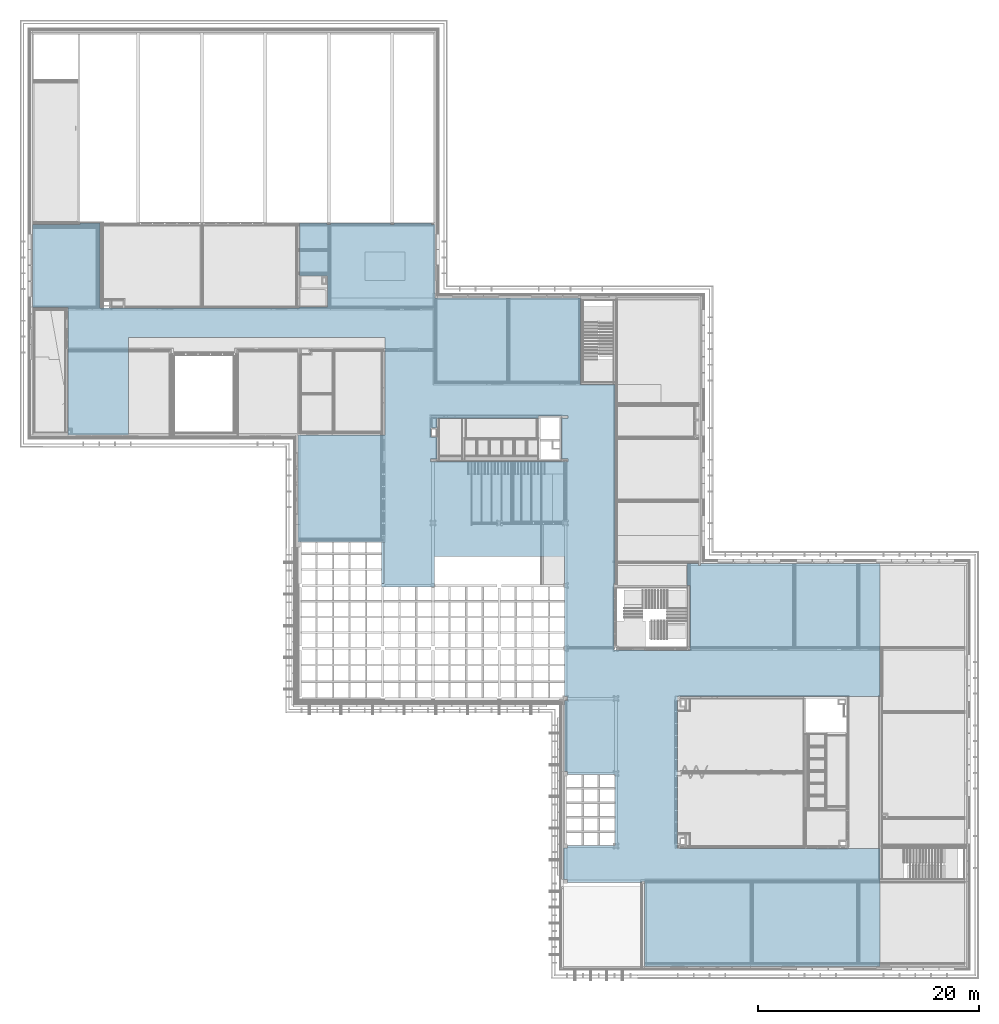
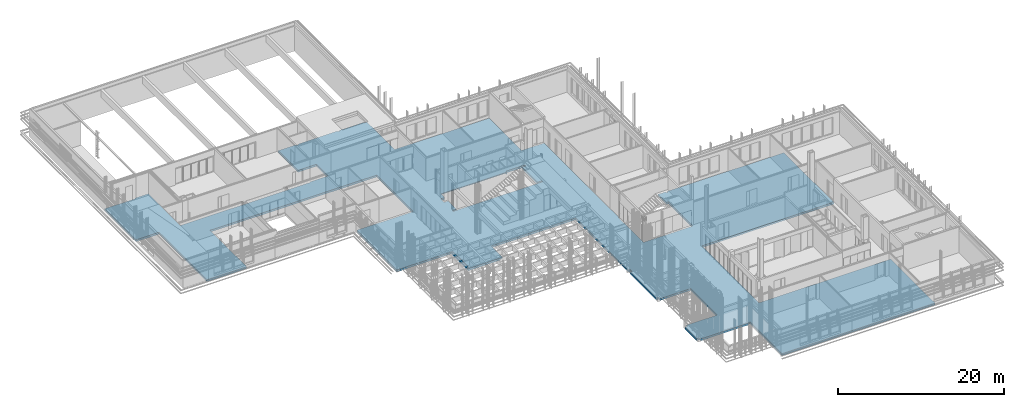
# One storey, part 92 of 139: 1 building element part, 7 openings, 1 element without a shape of its own.
"""IFC2X3 building model written with IfcOpenShell, lengths in millimetres."""

from ifc_helpers import new_model, entity, si_unit, converted_unit, derived_unit, money_unit, direction, frame, origin_with_axes, place, context, subcontext, project, spatial, faceted_brep, material, type_object, element, aggregate, save


model = new_model("IFC2X3")

# Units and contexts
model_context = context("Model", 3, precision=0.01, world=origin_with_axes(), true_north=direction((0.0, 1.0)))
body_context = subcontext(model_context, "Body", "Model", "MODEL_VIEW")
ifc_project = project(units=[si_unit("LENGTHUNIT", "METRE", prefix="MILLI"), si_unit("AREAUNIT", "SQUARE_METRE"), si_unit("VOLUMEUNIT", "CUBIC_METRE"), converted_unit("PLANEANGLEUNIT", "DEGREE", entity("IfcPlaneAngleMeasure", 0.0174532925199), si_unit("PLANEANGLEUNIT", "RADIAN"), dimensions=[0, 0, 0, 0, 0, 0, 0]), money_unit("EUR"), converted_unit("TIMEUNIT", "Year", entity("IfcTimeMeasure", 31556926.0), si_unit("TIMEUNIT", "SECOND"), dimensions=[0, 0, 1, 0, 0, 0, 0]), si_unit("MASSUNIT", "GRAM", prefix="KILO"), si_unit("THERMODYNAMICTEMPERATUREUNIT", "DEGREE_CELSIUS"), si_unit("LUMINOUSINTENSITYUNIT", "LUMEN"), si_unit("ENERGYUNIT", "JOULE", prefix="MEGA"), derived_unit("THERMALCONDUCTANCEUNIT", [(si_unit("POWERUNIT", "WATT"), 1), (si_unit("LENGTHUNIT", "METRE"), -1), (si_unit("THERMODYNAMICTEMPERATUREUNIT", "KELVIN"), -1)]), derived_unit("SPECIFICHEATCAPACITYUNIT", [(si_unit("ENERGYUNIT", "JOULE"), 1), (si_unit("MASSUNIT", "GRAM", prefix="KILO"), -1), (si_unit("THERMODYNAMICTEMPERATUREUNIT", "KELVIN"), -1)]), derived_unit("MASSDENSITYUNIT", [(si_unit("MASSUNIT", "GRAM", prefix="KILO"), 1), (si_unit("VOLUMEUNIT", "CUBIC_METRE"), -1)])], contexts=[model_context])

# Site, building, storey
site_placement = place(None, origin_with_axes())
site = spatial("IfcSite", under=ifc_project, at=site_placement, Name="Kolde pst 67a", CompositionType="ELEMENT")
building_placement = place(site_placement, origin_with_axes())
building = spatial("IfcBuilding", under=site, at=building_placement, Name="Riigigümnaasium", CompositionType="ELEMENT")
storey_placement = place(building_placement, frame((0.0, 0.0, 4600.0), z_axis=(0.0, 0.0, 1.0), x_axis=(1.0, 0.0, 0.0)))
storey = spatial("IfcBuildingStorey", under=building, at=storey_placement, Name="2. korrus", CompositionType="ELEMENT", Elevation=4600.0)

# Slab, openings, building element part
slab_type = type_object("IfcSlabType", Name="VL-CLT-28/1_PVC kate 430", PredefinedType="NOTDEFINED")
slab_placement = place(storey_placement, frame((39.9563582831, 59549.9979567, 0.0), z_axis=(0.0, 0.0, 1.0), x_axis=(1.0, 0.0, 0.0)))
slab = element("IfcSlab", 1, at=slab_placement, inside=storey, type_object=slab_type, Name="VAHELAGI", PredefinedType="NOTDEFINED")
opening_1_placement = place(slab_placement, frame((-39.9563582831, -59549.9979567, -4600.0), z_axis=(0.0, 0.0, 1.0), x_axis=(1.0, 0.0, 0.0)))
element("IfcOpeningElement", 2, at=opening_1_placement, cuts=slab, Name="Šaht", ObjectType="OPENING", context=body_context, shape_type="Brep", body=[
    faceted_brep([(45774.9854607, 45669.9999598, 12550.0), (45774.9854607, 47471.3382495, 12550.0), (45774.9854607, 47471.3382495, -50.0), (45774.9854607, 45669.9999598, -50.0), (47874.9854607, 45669.9999598, 12550.0), (47874.9854607, 47471.3382495, 12550.0), (47874.9854607, 47471.3382495, -50.0), (47874.9854607, 45669.9999598, -50.0)], [[[0, 1, 2, 3]], [[0, 4, 5, 1]], [[1, 5, 6, 2]], [[3, 2, 6, 7]], [[4, 0, 3, 7]], [[5, 4, 7, 6]]]),
])
opening_2_placement = place(slab_placement, frame((-39.9563582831, -59549.9979567, -4600.0), z_axis=(0.0, 0.0, 1.0), x_axis=(1.0, 0.0, 0.0)))
element("IfcOpeningElement", 3, at=opening_2_placement, cuts=slab, Name="Šaht", ObjectType="OPENING", context=body_context, shape_type="Brep", body=[
    faceted_brep([(45774.9854607, 47471.3382495, 12550.0), (45774.9854607, 49769.9999599, 12550.0), (45774.9854607, 49769.9999599, -50.0), (45774.9854607, 47471.3382495, -50.0), (47874.9854607, 47471.3382495, 12550.0), (47874.9854607, 49769.9999599, 12550.0), (47874.9854607, 49769.9999599, -50.0), (47874.9854607, 47471.3382495, -50.0)], [[[0, 1, 2, 3]], [[0, 4, 5, 1]], [[1, 5, 6, 2]], [[3, 2, 6, 7]], [[4, 0, 3, 7]], [[5, 4, 7, 6]]]),
])
opening_3_placement = place(slab_placement, frame((-39.9563582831, -59549.9979567, -4600.0), z_axis=(0.0, 0.0, 1.0), x_axis=(1.0, 0.0, 0.0)))
element("IfcOpeningElement", 4, at=opening_3_placement, cuts=slab, Name="Õhuruum", ObjectType="OPENING", context=body_context, shape_type="Brep", body=[
    faceted_brep([(47799.9854892, 10979.9999742, 5050.0), (47799.9854892, 17369.9999742, 5050.0), (47799.9854892, 17369.9999742, 3700.0), (47799.9854892, 10979.9999742, 3700.0), (52699.9854892, 10979.9999742, 5050.0), (52699.9854892, 17369.9999742, 5050.0), (52699.9854892, 17369.9999742, 3700.0), (52699.9854892, 10979.9999742, 3700.0)], [[[0, 1, 2, 3]], [[0, 4, 5, 1]], [[1, 5, 6, 2]], [[3, 2, 6, 7]], [[4, 0, 3, 7]], [[5, 4, 7, 6]]]),
])
opening_4_placement = place(slab_placement, frame((-39.9563582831, -59549.9979567, -4600.0), z_axis=(0.0, 0.0, 1.0), x_axis=(1.0, 0.0, 0.0)))
element("IfcOpeningElement", 5, at=opening_4_placement, cuts=slab, Name="Šaht", ObjectType="OPENING", context=body_context, shape_type="Brep", body=[
    faceted_brep([(32549.1365803, 31079.999196, -50.0), (32549.1365803, 31579.9999486, -50.0), (32549.1365803, 31579.9999486, 12550.0), (32549.1365803, 31079.999196, 12550.0), (31940.0027776, 31079.999196, -50.0), (31940.0027776, 31579.9999486, -50.0), (31940.0027776, 31579.9999486, 12550.0), (31940.0027776, 31079.999196, 12550.0)], [[[0, 1, 2, 3]], [[0, 4, 5, 1]], [[1, 5, 6, 2]], [[3, 2, 6, 7]], [[4, 0, 3, 7]], [[5, 4, 7, 6]]]),
])
opening_5_placement = place(slab_placement, frame((-39.9563582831, -59549.9979567, -4600.0), z_axis=(0.0, 0.0, 1.0), x_axis=(1.0, 0.0, 0.0)))
element("IfcOpeningElement", 6, at=opening_5_placement, cuts=slab, Name="Šaht", ObjectType="OPENING", context=body_context, shape_type="Brep", body=[
    faceted_brep([(36054.99923, 47865.0003336, 12673.7250489), (36054.99923, 48680.0003365, 12673.7250489), (36054.99923, 48680.0003365, -50.0), (36054.99923, 47865.0003336, -50.0), (36604.99923, 47865.0003336, 12673.7250489), (36604.99923, 48680.0003365, 12673.7250489), (36604.99923, 48680.0003365, -50.0), (36604.99923, 47865.0003336, -50.0)], [[[0, 1, 2, 3]], [[0, 4, 5, 1]], [[1, 5, 6, 2]], [[3, 2, 6, 7]], [[4, 0, 3, 7]], [[5, 4, 7, 6]]]),
])
opening_6_placement = place(slab_placement, frame((-39.9563582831, -59549.9979567, -4600.0), z_axis=(0.0, 0.0, 1.0), x_axis=(1.0, 0.0, 0.0)))
element("IfcOpeningElement", 7, at=opening_6_placement, cuts=slab, Name="Šaht", ObjectType="OPENING", context=body_context, shape_type="Brep", body=[
    faceted_brep([(24200.0027342, 59624.9979478, 5050.0), (24200.0027342, 62421.1829534, 5050.0), (24200.0027342, 62421.1829534, 3700.0), (24200.0027342, 59624.9979478, 3700.0), (26729.99923, 59624.9979478, 5050.0), (26729.99923, 62421.1829534, 5050.0), (26729.99923, 62421.1829534, 3700.0), (26729.99923, 59624.9979478, 3700.0)], [[[0, 1, 2, 3]], [[0, 4, 5, 1]], [[1, 5, 6, 2]], [[3, 2, 6, 7]], [[4, 0, 3, 7]], [[5, 4, 7, 6]]]),
])
opening_7_placement = place(slab_placement, frame((-39.9563582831, -59549.9979567, -4600.0), z_axis=(0.0, 0.0, 1.0), x_axis=(1.0, 0.0, 0.0)))
element("IfcOpeningElement", 8, at=opening_7_placement, cuts=slab, Name="Šaht", ObjectType="OPENING", context=body_context, shape_type="Brep", body=[
    faceted_brep([(42369.99923, 30974.9992219, -50.0), (42869.9999826, 30974.9992219, -50.0), (42869.9999826, 30974.9992219, 12550.0), (42369.99923, 30974.9992219, 12550.0), (42369.99923, 31579.999976, -50.0), (42869.9999826, 31579.999976, -50.0), (42869.9999826, 31579.999976, 12550.0), (42369.99923, 31579.999976, 12550.0)], [[[0, 1, 2, 3]], [[0, 4, 5, 1]], [[1, 5, 6, 2]], [[3, 2, 6, 7]], [[4, 0, 3, 7]], [[5, 4, 7, 6]]]),
])
ifc_material = material(Name="_KANDETARIND - CLT ristkihtliimpuit vastavalt EK osale, CLT paigaldusvuugid teibitakse ROTHOBLAAS teibiga")
building_element_part_placement = place(slab_placement, origin_with_axes())
building_element_part = element("IfcBuildingElementPart", 9, at=building_element_part_placement, material=ifc_material, Name="_KANDETARIND - CLT ristkihtliimpuit vastavalt EK osale, CLT paigaldusvuugid teibitakse ROTHOBLAAS teibiga", context=body_context, shape_type="Brep", body=[
    faceted_brep([(31542.0451688, -21190.01713, -150.0), (31542.0424096, -21190.01713, -174.364167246), (31780.0464203, -21190.01713, -174.364167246), (31780.0464203, -21190.01713, -150.0), (31542.0451963, -21150.0171312, -150.0), (31542.0451963, -21150.0171312, -430.0), (31542.0423908, -25229.9979567, -430.0), (31542.0423908, -25229.9979567, -150.0), (31542.042604, -24920.0028824, -150.0), (31542.0423923, -24920.0028824, -174.364167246), (31542.0428717, -24859.9979853, -174.364167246), (31542.0428717, -21199.9779977, -174.364167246), (31780.0464203, -24920.0028824, -174.364167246), (31780.0464203, -24920.0028824, -150.0), (36330.0428742, -25229.9979567, -150.0), (36330.0428742, -22459.0940537, -150.0), (48070.0039964, -22459.0596283, -150.0), (48070.0411517, -35130.001422, -150.0), (48380.0291024, -35130.001422, -150.0), (48380.0291024, -35510.001422, -150.0), (48070.0577274, -35510.0023309, -150.0), (48070.0200361, -41899.998263, -150.0), (48380.0242121, -41899.998263, -150.0), (48380.0242121, -42179.9979825, -150.0), (52660.0291309, -42179.9979825, -150.0), (52660.0291309, -48569.9979825, -150.0), (48380.0291408, -48569.9979825, -150.0), (48380.0291408, -48840.0359831, -150.0), (48000.0291384, -48840.0359831, -150.0), (48000.0291215, -51649.9979567, -150.0), (48380.0242229, -51649.9979567, -150.0), (48380.0242229, -51930.0079393, -150.0), (55100.024962, -51929.8489379, -150.0), (55100.0246613, -51849.9988175, -150.0), (55330.0246613, -51849.9979567, -150.0), (55330.0249601, -51929.8434959, -150.0), (55330.0548244, -59509.9979567, -150.0), (76581.1490373, -59509.9979567, -150.0), (76579.986647, -48850.6574612, -150.0), (69910.0428548, -48850.036016, -150.0), (69910.0428548, -48860.036016, -150.0), (58289.9925184, -48860.036016, -150.0), (58289.9925184, -35109.997984, -150.0), (76610.0457048, -35109.997984, -150.0), (76610.0457048, -23109.998257, -150.0), (60400.0377639, -23109.998257, -150.0), (60400.0377639, -23309.998257, -150.0), (60200.0377639, -23309.998257, -150.0), (60200.0377639, -23109.998257, -150.0), (59150.0568692, -23109.998257, -150.0), (59150.0568692, -25099.997961, -150.0), (59440.0568692, -25099.997961, -150.0), (59440.0568692, -30959.998257, -150.0), (55335.0377659, -30959.998257, -150.0), (55335.0377659, -30929.9983007, -150.0), (52579.0377639, -30929.9983007, -150.0), (52579.0377639, -24909.9979838, -150.0), (52640.0377772, -24909.9979838, -150.0), (52640.0377641, -6939.99778428, -150.0), (49550.0536973, -6939.99777257, -150.0), (49550.0536971, 890.002227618, -150.0), (36400.0428717, 890.002227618, -150.0), (36400.0427438, 7539.99993167, -150.0), (36080.0427438, 7539.99993167, -150.0), (36080.0427438, 7659.99379268, -150.0), (32670.0436417, 7659.99436836, -150.0), (32670.0436417, 7539.98287716, -150.0), (32350.0436417, 7539.98287716, -150.0), (32350.0436417, 7659.99442238, -150.0), (26940.0436417, 7659.9953357, -150.0), (26940.0436417, 7539.98287716, -150.0), (26620.0436417, 7539.98287716, -150.0), (26620.0436417, 7659.99538972, -150.0), (24160.0463759, 7659.99580502, -150.0), (24160.0463759, 2871.18499669, -150.0), (26690.0428717, 2871.18499669, -150.0), (26690.0428717, 74.9999911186, -150.0), (24160.0463759, 74.9999911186, -150.0), (24160.0463759, -40.0001245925, -150.0), (6120.04156233, -40.0001245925, -150.0), (6120.04156233, 7659.99885053, -150.0), (4300.04314163, 7659.99915778, -150.0), (4300.04314163, 7539.99919467, -150.0), (4127.54314142, 7539.99919467, -150.0), (0.100000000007, 7539.99919465, -150.0), (0.1, -2.70006239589e-10, -150.0), (3209.98406573, -8.63914806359e-06, -150.0), (3209.98405866, -11509.9854449, -150.0), (8715.03681619, -11509.9854449, -150.0), (8715.03681619, -2710.46285648, -150.0), (31850.0464212, -2710.46285648, -150.0), (31850.0464212, -11510.0171259, -150.0), (24000.0463759, -11510.0171259, -150.0), (24000.0463759, -21150.0171229, -150.0), (47835.0291024, -13679.9979969, -150.0), (48400.0291078, -13679.9979973, -150.0), (48400.0291078, -13879.9979964, -150.0), (47835.0291024, -13879.9979969, -150.0), (45735.0291024, -13879.9979969, -150.0), (36565.0428717, -13879.9979969, -150.0), (36000.0428717, -13879.9979964, -150.0), (36000.0428717, -13679.9979973, -150.0), (36565.0428717, -13679.9979969, -150.0), (36565.0428717, -11684.9976232, -150.0), (36015.0428717, -11684.9976232, -150.0), (36015.0428717, -10869.9976202, -150.0), (36565.0428717, -10869.9976202, -150.0), (36565.0428717, -9994.99799688, -150.0), (45735.0291024, -9994.99799688, -150.0), (45735.0291024, -9779.99799688, -150.0), (47835.0291024, -9779.99799688, -150.0), (48400.0291024, -9779.99799688, -150.0), (48400.0291024, -9979.99799688, -150.0), (47835.0291024, -9979.99799688, -150.0), (24000.0463759, -21150.0171229, -430.0), (67610.9313845, -35099.997921, -430.0), (64089.5805108, -35099.997921, -430.0), (64089.5805108, -35109.997921, -430.0), (58289.9925184, -35109.997984, -430.0), (58289.9925184, -48860.036016, -430.0), (69910.0428548, -48860.036016, -430.0), (69910.0428548, -48850.036016, -430.0), (76579.986647, -48850.6574612, -430.0), (76581.1490373, -59509.9979567, -430.0), (55330.0548244, -59509.9979567, -430.0), (55330.0249601, -51929.8434959, -430.0), (55330.0239128, -51849.9979567, -430.0), (55330.0239128, -51649.9979567, -430.0), (54950.0239128, -51649.9979567, -430.0), (54950.0239128, -51929.852487, -430.0), (48380.0242229, -51930.0079393, -430.0), (48380.0242229, -51649.9979567, -430.0), (48000.0291215, -51649.9979567, -430.0), (48000.0291384, -48840.0359831, -430.0), (48380.0291408, -48840.0359831, -430.0), (48380.0291408, -48569.9979825, -430.0), (52660.0291309, -48569.9979825, -430.0), (52660.0291309, -42179.9979825, -430.0), (48380.0242121, -42179.9979825, -430.0), (48380.0242121, -41899.998263, -430.0), (48070.0200361, -41899.998263, -430.0), (48070.0577274, -35510.0023309, -430.0), (48380.0291024, -35510.001422, -430.0), (48380.0291024, -35130.001422, -430.0), (48070.0411517, -35130.001422, -430.0), (48070.0289239, -30959.998257, -430.0), (48380.0291024, -30959.998257, -430.0), (48380.0291024, -30579.998257, -430.0), (48070.0278097, -30579.998257, -430.0), (48070.012327, -25299.9979838, -430.0), (48380.0291024, -25299.9979838, -430.0), (48380.0291024, -24919.9979838, -430.0), (48070.0112127, -24919.9979838, -430.0), (48070.0039964, -22459.0596283, -430.0), (36330.0428742, -22459.0940537, -430.0), (36330.0428742, -24919.9979838, -430.0), (36020.0428717, -24919.9979838, -430.0), (36020.0428717, -25229.9979567, -430.0), (24000.0463759, -11510.0171259, -430.0), (31850.0464212, -11510.0171259, -430.0), (31850.0464212, -2710.46285648, -430.0), (8715.03681619, -2710.46285648, -430.0), (8715.03681619, -11509.9854449, -430.0), (3209.98405866, -11509.9854449, -430.0), (3209.98406573, -8.63914806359e-06, -430.0), (0.1, -2.70006239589e-10, -430.0), (0.100000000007, 7539.99919465, -430.0), (4127.54314142, 7539.99919467, -430.0), (4300.04314163, 7539.99919467, -430.0), (4300.04314163, 7659.99915778, -430.0), (6120.04156233, 7659.99885053, -430.0), (6120.04156233, -40.0001245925, -430.0), (24160.0463759, -40.0001245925, -430.0), (24160.0463759, 74.9999911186, -430.0), (26690.0428717, 74.9999911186, -430.0), (26690.0428717, 2871.18499669, -430.0), (24160.0463759, 2871.18499669, -430.0), (24160.0463759, 7659.99580502, -430.0), (26620.0436417, 7659.99538972, -430.0), (26620.0436417, 7539.98287716, -430.0), (26940.0436417, 7539.98287716, -430.0), (26940.0436417, 7659.9953357, -430.0), (32350.0436417, 7659.99442238, -430.0), (32350.0436417, 7539.98287716, -430.0), (32670.0436417, 7539.98287716, -430.0), (32670.0436417, 7659.99436836, -430.0), (36080.0427438, 7659.99379268, -430.0), (36080.0427438, 7539.99993167, -430.0), (36400.0427438, 7539.99993167, -430.0), (36400.0428717, 890.002227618, -430.0), (49550.0536971, 890.002227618, -430.0), (49550.0536973, -6939.99777257, -430.0), (52640.0377641, -6939.99778428, -430.0), (52640.0377772, -24909.9979838, -430.0), (52579.0377639, -24909.9979838, -430.0), (52579.0377639, -30929.9983007, -430.0), (55335.0377659, -30929.9983007, -430.0), (55335.0377659, -30959.998257, -430.0), (59440.0568692, -30959.998257, -430.0), (59440.0568692, -25099.997961, -430.0), (59150.0568692, -25099.997961, -430.0), (59150.0568692, -23109.998257, -430.0), (60200.0377639, -23109.998257, -430.0), (60200.0377639, -23309.998257, -430.0), (60400.0377639, -23309.998257, -430.0), (60400.0377639, -23109.998257, -430.0), (76610.0457048, -23109.998257, -430.0), (76610.0457048, -35109.997984, -430.0), (67610.9313845, -35109.997921, -430.0), (36000.0428717, -9779.99799688, -430.0), (36000.0428717, -9979.99799688, -430.0), (36565.0428717, -9979.99799688, -430.0), (36565.0428722, -9994.99799688, -430.0), (36565.0428717, -10869.9976202, -430.0), (36015.0428717, -10869.9976202, -430.0), (36015.0428717, -11684.9976232, -430.0), (36565.0428717, -11684.9976232, -430.0), (36565.0428717, -13679.9979969, -430.0), (36000.0428717, -13679.9979973, -430.0), (36000.0428717, -13879.9979964, -430.0), (36565.0428717, -13879.9979969, -430.0), (45735.0291024, -13879.9979969, -430.0), (47835.0291024, -13879.9979969, -430.0), (48400.0291078, -13879.9979964, -430.0), (48400.0291078, -13679.9979973, -430.0), (47835.0291024, -13679.9979969, -430.0), (47835.0291024, -9979.99799688, -430.0), (48400.0291024, -9979.99799688, -430.0), (48400.0291024, -9779.99799688, -430.0), (47835.0291024, -9779.99799688, -430.0), (45735.0291024, -9779.99799688, -430.0), (45735.0291024, -9994.99799688, -430.0), (45590.0291024, -9994.99799688, -430.0), (45590.0291024, -9779.99799688, -430.0), (36020.0428717, -25229.9979559, -290.0), (36330.0428742, -25229.9979567, -290.0), (36330.0428628, -24919.9979838, -290.0), (48070.0112127, -24919.9979838, -290.0), (48070.012327, -25299.9979838, -290.0), (48070.0278097, -30579.998257, -290.0), (48070.0289239, -30959.998257, -290.0), (54950.0239128, -51929.852487, -380.0), (55100.024962, -51929.8489379, -380.0), (55100.0246613, -51849.9988175, -380.0), (55330.0239128, -51849.9979567, -380.0), (64089.5805108, -35109.997921, -380.0), (67610.9313845, -35109.997921, -380.0), (0.1, -2.70006239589e-10, -410.00000155), (36565.0428717, -9994.99799688, -360.0), (36565.0428717, -9994.99799688, -270.000000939), (38869.874153, -9994.99799688, -270.000004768), (39069.874153, -9994.99797894, -270.000004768), (39069.874153, -9994.99799688, -430.0), (39214.874153, -9994.99799688, -430.0), (39214.874153, -9994.99799688, -270.000004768), (45590.0291024, -9994.99799688, -270.0), (64089.5805108, -35099.997921, -380.0), (67610.9313845, -35099.997921, -380.0), (55330.0239128, -51649.9979567, -380.0), (54950.0239128, -51649.9979567, -380.0), (48380.0291024, -30959.998257, -290.0), (48380.0291024, -30579.998257, -290.0), (48380.0291024, -25299.9979838, -290.0), (48380.0291024, -24919.9979838, -290.0), (36020.0428717, -24919.9979838, -290.0), (36000.0428717, -9779.99799688, -270.0), (36000.0428717, -9979.99799688, -270.0), (36565.0428717, -9979.99799688, -270.000000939), (36565.0428717, -9979.99799688, -360.0), (45590.0291024, -9779.99799688, -270.0), (39214.874153, -9979.99799688, -270.0), (39069.874153, -9979.99799688, -270.000004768), (39069.874153, -9979.99799688, -430.0), (39214.874153, -9979.99799688, -430.0)], [[[0, 1, 2, 3]], [[1, 0, 4, 5, 6, 7, 8, 9, 10, 11]], [[1, 11, 10, 9, 12, 2]], [[3, 2, 12, 13]], [[13, 8, 7, 14, 15, 16, 17, 18, 19, 20, 21, 22, 23, 24, 25, 26, 27, 28, 29, 30, 31, 32, 33, 34, 35, 36, 37, 38, 39, 40, 41, 42, 43, 44, 45, 46, 47, 48, 49, 50, 51, 52, 53, 54, 55, 56, 57, 58, 59, 60, 61, 62, 63, 64, 65, 66, 67, 68, 69, 70, 71, 72, 73, 74, 75, 76, 77, 78, 79, 80, 81, 82, 83, 84, 85, 86, 87, 88, 89, 90, 91, 92, 93, 4, 0, 3], [94, 95, 96, 97, 98, 99, 100, 101, 102, 103, 104, 105, 106, 107, 108, 109, 110, 111, 112, 113]], [[114, 5, 4, 93]], [[115, 116, 117, 118, 119, 120, 121, 122, 123, 124, 125, 126, 127, 128, 129, 130, 131, 132, 133, 134, 135, 136, 137, 138, 139, 140, 141, 142, 143, 144, 145, 146, 147, 148, 149, 150, 151, 152, 153, 154, 155, 156, 157, 6, 5, 114, 158, 159, 160, 161, 162, 163, 164, 165, 166, 167, 168, 169, 170, 171, 172, 173, 174, 175, 176, 177, 178, 179, 180, 181, 182, 183, 184, 185, 186, 187, 188, 189, 190, 191, 192, 193, 194, 195, 196, 197, 198, 199, 200, 201, 202, 203, 204, 205, 206, 207, 208], [209, 210, 211, 212, 213, 214, 215, 216, 217, 218, 219, 220, 221, 222, 223, 224, 225, 226, 227, 228, 229, 230, 231, 232, 233]], [[234, 235, 14, 7, 6, 157]], [[12, 9, 8, 13]], [[236, 155, 154, 15, 14, 235]], [[154, 153, 16, 15]], [[153, 152, 237, 238, 149, 148, 239, 240, 145, 144, 17, 16]], [[144, 143, 18, 17]], [[143, 142, 19, 18]], [[142, 141, 20, 19]], [[141, 140, 21, 20]], [[140, 139, 22, 21]], [[23, 22, 139, 138]], [[23, 138, 137, 24]], [[24, 137, 136, 25]], [[25, 136, 135, 26]], [[135, 134, 27, 26]], [[134, 133, 28, 27]], [[133, 132, 29, 28]], [[132, 131, 30, 29]], [[131, 130, 31, 30]], [[130, 129, 241, 242, 32, 31]], [[33, 32, 242, 243]], [[34, 33, 243, 244]], [[35, 34, 244, 126, 125]], [[124, 36, 35, 125]], [[124, 123, 37, 36]], [[123, 122, 38, 37]], [[122, 121, 39, 38]], [[121, 120, 40, 39]], [[120, 119, 41, 40]], [[119, 118, 42, 41]], [[245, 246, 208, 207, 43, 42, 118, 117]], [[207, 206, 44, 43]], [[44, 206, 205, 45]], [[205, 204, 46, 45]], [[204, 203, 47, 46]], [[47, 203, 202, 48]], [[201, 49, 48, 202]], [[201, 200, 50, 49]], [[200, 199, 51, 50]], [[199, 198, 52, 51]], [[198, 197, 53, 52]], [[197, 196, 54, 53]], [[196, 195, 55, 54]], [[195, 194, 56, 55]], [[194, 193, 57, 56]], [[193, 192, 58, 57]], [[192, 191, 59, 58]], [[191, 190, 60, 59]], [[190, 189, 61, 60]], [[62, 61, 189, 188]], [[62, 188, 187, 63]], [[64, 63, 187, 186]], [[186, 185, 65, 64]], [[184, 66, 65, 185]], [[183, 67, 66, 184]], [[183, 182, 68, 67]], [[181, 69, 68, 182]], [[70, 69, 181, 180]], [[71, 70, 180, 179]], [[178, 72, 71, 179]], [[72, 178, 177, 73]], [[74, 73, 177, 176]], [[74, 176, 175, 75]], [[75, 175, 174, 76]], [[76, 174, 173, 77]], [[173, 172, 78, 77]], [[172, 171, 79, 78]], [[171, 170, 80, 79]], [[81, 80, 170, 169]], [[81, 169, 168, 82]], [[82, 168, 167, 83]], [[167, 166, 84, 83]], [[247, 85, 84, 166, 165]], [[85, 247, 165, 164, 86]], [[164, 163, 87, 86]], [[163, 162, 88, 87]], [[162, 161, 89, 88]], [[161, 160, 90, 89]], [[160, 159, 91, 90]], [[159, 158, 92, 91]], [[158, 114, 93, 92]], [[225, 224, 95, 94]], [[224, 223, 96, 95]], [[223, 222, 97, 96]], [[221, 98, 97, 222]], [[98, 221, 220, 99]], [[220, 219, 100, 99]], [[219, 218, 101, 100]], [[101, 218, 217, 102]], [[216, 103, 102, 217]], [[103, 216, 215, 104]], [[104, 215, 214, 105]], [[106, 105, 214, 213]], [[213, 212, 248, 249, 107, 106]], [[232, 231, 108, 107, 249, 250, 251, 252, 253, 254, 255]], [[108, 231, 230, 109]], [[109, 230, 229, 110]], [[229, 228, 111, 110]], [[228, 227, 112, 111]], [[227, 226, 113, 112]], [[113, 226, 225, 94]], [[256, 116, 115, 257]], [[245, 117, 116, 256]], [[244, 258, 127, 126]], [[258, 259, 128, 127]], [[259, 241, 129, 128]], [[146, 145, 240, 260]], [[147, 146, 260, 261]], [[148, 147, 261, 239]], [[149, 238, 262, 150]], [[150, 262, 263, 151]], [[151, 263, 237, 152]], [[155, 236, 264, 156]], [[157, 156, 264, 234]], [[257, 115, 208, 246]], [[265, 266, 210, 209]], [[266, 267, 268, 211, 210]], [[212, 211, 268, 248]], [[232, 255, 269, 233]], [[209, 233, 269, 265]], [[236, 235, 234, 264]], [[237, 263, 262, 238]], [[240, 239, 261, 260]], [[259, 258, 244, 243, 242, 241]], [[257, 246, 245, 256]], [[249, 248, 268, 267]], [[254, 270, 271, 251, 250, 249, 267, 266, 265, 269, 255]], [[252, 251, 271, 272]], [[273, 253, 252, 272]], [[254, 253, 273, 270]], [[270, 273, 272, 271]]]),
])
aggregate(slab, [building_element_part])

save(model, "model.ifc")
